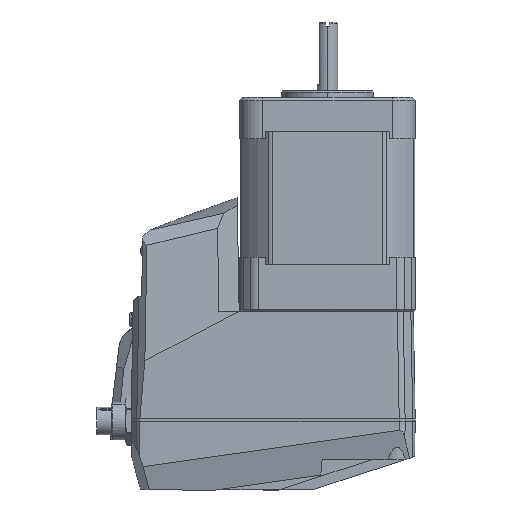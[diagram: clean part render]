
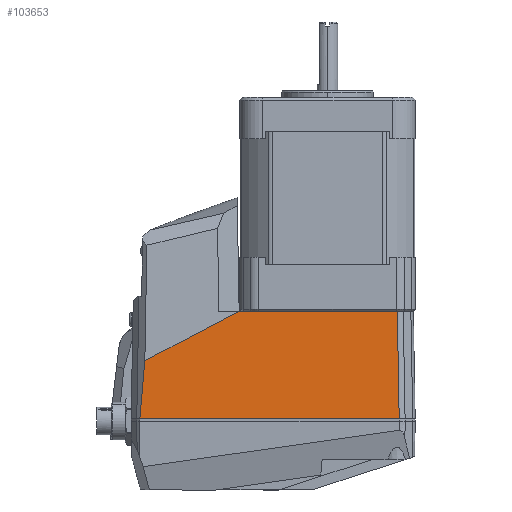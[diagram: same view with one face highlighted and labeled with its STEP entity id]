
A CAD part, left-side view. The second image highlights one B-rep face of the part: STEP entity #103653.
In plain terms, the highlighted planar face has unit normal (-1, 0, 0.018) as drawn and (1, 0, -0.017) by its records, which use the part's own axes.
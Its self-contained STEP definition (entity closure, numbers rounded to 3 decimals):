
#5020 = DIRECTION ( 'NONE',  ( 0.008, 0.885, 0.466 ) ) ;
#7395 = LINE ( 'NONE', #57833, #60374 ) ;
#13823 = LINE ( 'NONE', #86092, #50633 ) ;
#14292 = EDGE_CURVE ( 'NONE', #41643, #52989, #26150, .T. ) ;
#14404 = DIRECTION ( 'NONE',  ( -0.017, 0., -1. ) ) ;
#16358 = ORIENTED_EDGE ( 'NONE', *, *, #63560, .T. ) ;
#18957 = CARTESIAN_POINT ( 'NONE',  ( -27.765, -1.594, 2.177 ) ) ;
#20863 = ORIENTED_EDGE ( 'NONE', *, *, #119703, .T. ) ;
#21650 = DIRECTION ( 'NONE',  ( 0., 1., 0. ) ) ;
#26150 = LINE ( 'NONE', #117823, #48224 ) ;
#29512 = CARTESIAN_POINT ( 'NONE',  ( -27.765, 11.025, 2.177 ) ) ;
#31012 = LINE ( 'NONE', #85439, #102920 ) ;
#36159 = CARTESIAN_POINT ( 'NONE',  ( -27.765, 36.445, 2.177 ) ) ;
#36812 = CARTESIAN_POINT ( 'NONE',  ( -27.765, 36.262, 2.177 ) ) ;
#41643 = VERTEX_POINT ( 'NONE', #36159 ) ;
#43966 = ORIENTED_EDGE ( 'NONE', *, *, #116793, .F. ) ;
#47202 = CARTESIAN_POINT ( 'NONE',  ( -27.765, 23.643, 2.177 ) ) ;
#48224 = VECTOR ( 'NONE', #5020, 1000. ) ;
#48966 = PLANE ( 'NONE',  #103577 ) ;
#49151 = LINE ( 'NONE', #68741, #79946 ) ;
#50633 = VECTOR ( 'NONE', #21650, 1000. ) ;
#52805 = ORIENTED_EDGE ( 'NONE', *, *, #89339, .T. ) ;
#52989 = VERTEX_POINT ( 'NONE', #110222 ) ;
#54256 = FACE_OUTER_BOUND ( 'NONE', #85233, .T. ) ;
#57833 = CARTESIAN_POINT ( 'NONE',  ( -27.316, -1.942, 27.895 ) ) ;
#60374 = VECTOR ( 'NONE', #114344, 1000. ) ;
#63560 = EDGE_CURVE ( 'NONE', #87107, #84142, #49151, .T. ) ;
#68741 = CARTESIAN_POINT ( 'NONE',  ( -27.765, -1.594, 2.192 ) ) ;
#70418 = CARTESIAN_POINT ( 'NONE',  ( -27.316, 60.03, 27.895 ) ) ;
#76912 = DIRECTION ( 'NONE',  ( -0.017, 0.017, -1. ) ) ;
#79946 = VECTOR ( 'NONE', #76912, 1000. ) ;
#84142 = VERTEX_POINT ( 'NONE', #18957 ) ;
#84923 = CARTESIAN_POINT ( 'NONE',  ( -27.765, -1.594, 2.177 ) ) ;
#85233 = EDGE_LOOP ( 'NONE', ( #43966, #20863, #16358, #52805, #95150, #94142 ) ) ;
#85439 = CARTESIAN_POINT ( 'NONE',  ( -27.888, 57.21, -4.858 ) ) ;
#85776 = EDGE_CURVE ( 'NONE', #117771, #41643, #13823, .T. ) ;
#86092 = CARTESIAN_POINT ( 'NONE',  ( -27.765, -5.423, 2.177 ) ) ;
#87107 = VERTEX_POINT ( 'NONE', #117961 ) ;
#89339 = EDGE_CURVE ( 'NONE', #84142, #117771, #106899, .T. ) ;
#91620 = VERTEX_POINT ( 'NONE', #70418 ) ;
#94142 = ORIENTED_EDGE ( 'NONE', *, *, #14292, .T. ) ;
#95150 = ORIENTED_EDGE ( 'NONE', *, *, #85776, .T. ) ;
#95681 = CARTESIAN_POINT ( 'NONE',  ( -27.517, -1.942, 16.377 ) ) ;
#102920 = VECTOR ( 'NONE', #103865, 1000. ) ;
#103577 = AXIS2_PLACEMENT_3D ( 'NONE', #95681, #105095, #14404 ) ;
#103653 = ADVANCED_FACE ( 'NONE', ( #54256 ), #48966, .T. ) ;
#103865 = DIRECTION ( 'NONE',  ( -0.017, -0.086, -0.996 ) ) ;
#105095 = DIRECTION ( 'NONE',  ( 1., 0., -0.017 ) ) ;
#106899 = B_SPLINE_CURVE_WITH_KNOTS ( 'NONE', 3,
 ( #84923, #29512, #47202, #112747 ),
 .UNSPECIFIED., .F., .F.,
 ( 4, 4 ),
 ( 0.092, 1. ),
 .UNSPECIFIED. ) ;
#110222 = CARTESIAN_POINT ( 'NONE',  ( -27.559, 58.831, 13.974 ) ) ;
#112747 = CARTESIAN_POINT ( 'NONE',  ( -27.765, 36.262, 2.177 ) ) ;
#114344 = DIRECTION ( 'NONE',  ( 0., -1., 0. ) ) ;
#116793 = EDGE_CURVE ( 'NONE', #91620, #52989, #31012, .T. ) ;
#117771 = VERTEX_POINT ( 'NONE', #36812 ) ;
#117823 = CARTESIAN_POINT ( 'NONE',  ( -28.036, 7.052, -13.312 ) ) ;
#117961 = CARTESIAN_POINT ( 'NONE',  ( -27.316, -2.043, 27.895 ) ) ;
#119703 = EDGE_CURVE ( 'NONE', #91620, #87107, #7395, .T. ) ;
